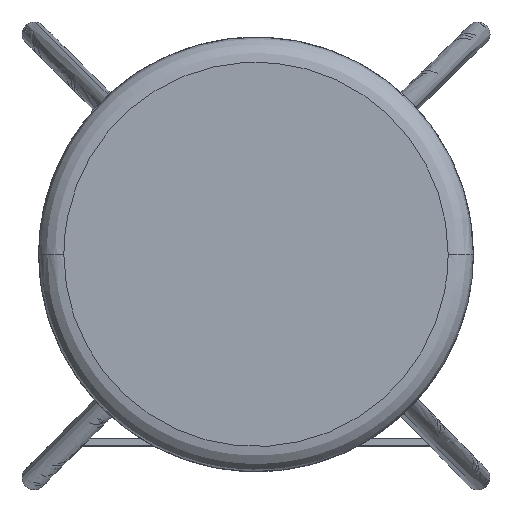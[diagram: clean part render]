
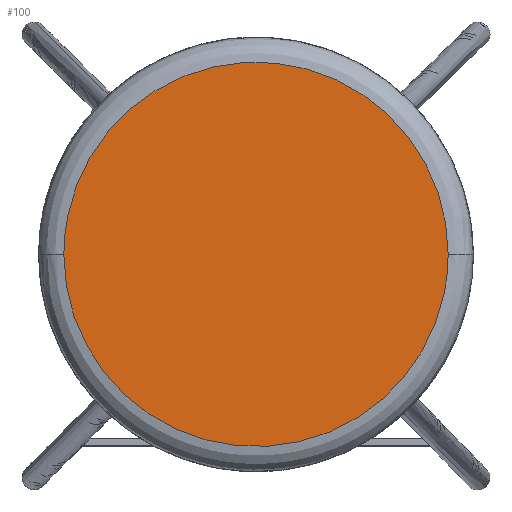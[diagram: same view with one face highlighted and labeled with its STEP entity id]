
A CAD part, top view. The second image highlights one B-rep face of the part: STEP entity #100.
In plain terms, the highlighted planar face has unit normal (0, 0, 1).
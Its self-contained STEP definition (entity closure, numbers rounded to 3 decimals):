
#100=ADVANCED_FACE('',(#185),#1115,.T.);
#185=FACE_OUTER_BOUND('',#270,.T.);
#270=EDGE_LOOP('',(#582,#583));
#582=ORIENTED_EDGE('',*,*,#757,.T.);
#583=ORIENTED_EDGE('',*,*,#763,.T.);
#757=EDGE_CURVE('',#1034,#1038,#921,.T.);
#763=EDGE_CURVE('',#1038,#1034,#927,.T.);
#921=(
BOUNDED_CURVE()
B_SPLINE_CURVE(3,(#2516,#2517,#2518,#2519,#2520,#2521,#2522,#2523,#2524,
#2525,#2526,#2527,#2528,#2529,#2530,#2531,#2532,#2533,#2534,#2535,#2536,
#2537,#2538,#2539,#2540,#2541,#2542,#2543,#2544,#2545,#2546,#2547,#2548,
#2549,#2550,#2551,#2552,#2553,#2554,#2555,#2556,#2557,#2558,#2559,#2560,
#2561,#2562,#2563,#2564),.UNSPECIFIED.,.F.,.F.)
B_SPLINE_CURVE_WITH_KNOTS((4,3,3,3,3,3,3,3,3,3,3,3,3,3,3,3,4),(0.,27.905,
57.486,88.301,119.773,151.245,182.06,
211.641,239.546,267.451,297.032,327.848,
359.319,390.791,421.606,451.187,479.092),
 .UNSPECIFIED.)
CURVE()
GEOMETRIC_REPRESENTATION_ITEM()
RATIONAL_B_SPLINE_CURVE((1.,1.,1.,1.,1.,
1.,1.,1.,1.,1.,1.,1.,1.,1.,
1.,1.,1.,1.,1.,1.,1.,1.,1.,1.,1.,
1.,1.,1.,1.,
1.,1.,1.,1.,1.,1.,1.,1.,1.,
1.,1.,1.,1.,1.,1.,1.,1.,
1.,1.,1.))
REPRESENTATION_ITEM('')
);
#927=(
BOUNDED_CURVE()
B_SPLINE_CURVE(3,(#2612,#2613,#2614,#2615,#2616,#2617,#2618,#2619,#2620,
#2621,#2622,#2623,#2624,#2625,#2626,#2627,#2628,#2629,#2630,#2631,#2632,
#2633,#2634,#2635,#2636,#2637,#2638,#2639,#2640,#2641,#2642,#2643,#2644,
#2645,#2646,#2647,#2648,#2649,#2650,#2651,#2652,#2653,#2654,#2655,#2656,
#2657,#2658,#2659,#2660),.UNSPECIFIED.,.F.,.F.)
B_SPLINE_CURVE_WITH_KNOTS((4,3,3,3,3,3,3,3,3,3,3,3,3,3,3,3,4),(479.092,
506.997,536.578,567.394,598.865,630.337,
661.152,690.733,718.638,746.543,776.124,
806.94,838.411,869.883,900.698,930.279,
958.184),.UNSPECIFIED.)
CURVE()
GEOMETRIC_REPRESENTATION_ITEM()
RATIONAL_B_SPLINE_CURVE((1.,1.,1.,1.,1.,1.,1.,1.,
1.,1.,1.,1.,1.,1.,1.,1.,1.,
1.,1.,1.,1.,1.,1.,1.,1.,1.,1.,1.,1.,1.,1.,
1.,1.,1.,1.,1.,1.,1.,1.,1.,1.,
1.,1.,1.,1.,
1.,1.,1.,1.))
REPRESENTATION_ITEM('')
);
#1034=VERTEX_POINT('',#2509);
#1038=VERTEX_POINT('',#2513);
#1115=PLANE('',#1177);
#1177=AXIS2_PLACEMENT_3D('',#2279,#1222,$);
#1222=DIRECTION('',(0.,0.,1.));
#2279=CARTESIAN_POINT('',(-215.625,-215.625,750.));
#2509=CARTESIAN_POINT('',(152.5,0.,750.));
#2513=CARTESIAN_POINT('',(-152.5,0.,750.));
#2516=CARTESIAN_POINT('',(152.5,0.,750.));
#2517=CARTESIAN_POINT('',(152.5,9.302,750.));
#2518=CARTESIAN_POINT('',(151.647,18.603,750.));
#2519=CARTESIAN_POINT('',(149.954,27.749,750.));
#2520=CARTESIAN_POINT('',(148.16,37.445,750.));
#2521=CARTESIAN_POINT('',(145.423,46.966,750.));
#2522=CARTESIAN_POINT('',(141.793,56.135,750.));
#2523=CARTESIAN_POINT('',(138.012,65.685,750.));
#2524=CARTESIAN_POINT('',(133.263,74.852,750.));
#2525=CARTESIAN_POINT('',(127.642,83.45,750.));
#2526=CARTESIAN_POINT('',(121.902,92.23,750.));
#2527=CARTESIAN_POINT('',(115.252,100.416,750.));
#2528=CARTESIAN_POINT('',(107.834,107.834,750.));
#2529=CARTESIAN_POINT('',(100.416,115.252,750.));
#2530=CARTESIAN_POINT('',(92.23,121.902,750.));
#2531=CARTESIAN_POINT('',(83.45,127.642,750.));
#2532=CARTESIAN_POINT('',(74.852,133.263,750.));
#2533=CARTESIAN_POINT('',(65.685,138.012,750.));
#2534=CARTESIAN_POINT('',(56.135,141.793,750.));
#2535=CARTESIAN_POINT('',(46.966,145.423,750.));
#2536=CARTESIAN_POINT('',(37.445,148.16,750.));
#2537=CARTESIAN_POINT('',(27.749,149.954,750.));
#2538=CARTESIAN_POINT('',(18.603,151.647,750.));
#2539=CARTESIAN_POINT('',(9.302,152.5,750.));
#2540=CARTESIAN_POINT('',(0.,152.5,750.));
#2541=CARTESIAN_POINT('',(-9.302,152.5,750.));
#2542=CARTESIAN_POINT('',(-18.603,151.647,750.));
#2543=CARTESIAN_POINT('',(-27.749,149.954,750.));
#2544=CARTESIAN_POINT('',(-37.445,148.16,750.));
#2545=CARTESIAN_POINT('',(-46.967,145.423,750.));
#2546=CARTESIAN_POINT('',(-56.135,141.793,750.));
#2547=CARTESIAN_POINT('',(-65.685,138.012,750.));
#2548=CARTESIAN_POINT('',(-74.852,133.263,750.));
#2549=CARTESIAN_POINT('',(-83.45,127.642,750.));
#2550=CARTESIAN_POINT('',(-92.23,121.902,750.));
#2551=CARTESIAN_POINT('',(-100.416,115.252,750.));
#2552=CARTESIAN_POINT('',(-107.834,107.834,750.));
#2553=CARTESIAN_POINT('',(-115.252,100.416,750.));
#2554=CARTESIAN_POINT('',(-121.902,92.23,750.));
#2555=CARTESIAN_POINT('',(-127.642,83.45,750.));
#2556=CARTESIAN_POINT('',(-133.263,74.852,750.));
#2557=CARTESIAN_POINT('',(-138.012,65.685,750.));
#2558=CARTESIAN_POINT('',(-141.793,56.135,750.));
#2559=CARTESIAN_POINT('',(-145.423,46.966,750.));
#2560=CARTESIAN_POINT('',(-148.16,37.445,750.));
#2561=CARTESIAN_POINT('',(-149.954,27.749,750.));
#2562=CARTESIAN_POINT('',(-151.647,18.603,750.));
#2563=CARTESIAN_POINT('',(-152.5,9.302,750.));
#2564=CARTESIAN_POINT('',(-152.5,0.,750.));
#2612=CARTESIAN_POINT('',(-152.5,0.,750.));
#2613=CARTESIAN_POINT('',(-152.5,-9.302,750.));
#2614=CARTESIAN_POINT('',(-151.647,-18.603,750.));
#2615=CARTESIAN_POINT('',(-149.954,-27.749,750.));
#2616=CARTESIAN_POINT('',(-148.16,-37.445,750.));
#2617=CARTESIAN_POINT('',(-145.423,-46.966,750.));
#2618=CARTESIAN_POINT('',(-141.793,-56.135,750.));
#2619=CARTESIAN_POINT('',(-138.012,-65.685,750.));
#2620=CARTESIAN_POINT('',(-133.263,-74.852,750.));
#2621=CARTESIAN_POINT('',(-127.642,-83.45,750.));
#2622=CARTESIAN_POINT('',(-121.902,-92.23,750.));
#2623=CARTESIAN_POINT('',(-115.252,-100.416,750.));
#2624=CARTESIAN_POINT('',(-107.834,-107.834,750.));
#2625=CARTESIAN_POINT('',(-100.416,-115.252,750.));
#2626=CARTESIAN_POINT('',(-92.23,-121.902,750.));
#2627=CARTESIAN_POINT('',(-83.45,-127.642,750.));
#2628=CARTESIAN_POINT('',(-74.852,-133.263,750.));
#2629=CARTESIAN_POINT('',(-65.685,-138.012,750.));
#2630=CARTESIAN_POINT('',(-56.135,-141.793,750.));
#2631=CARTESIAN_POINT('',(-46.966,-145.423,750.));
#2632=CARTESIAN_POINT('',(-37.445,-148.16,750.));
#2633=CARTESIAN_POINT('',(-27.749,-149.954,750.));
#2634=CARTESIAN_POINT('',(-18.603,-151.647,750.));
#2635=CARTESIAN_POINT('',(-9.302,-152.5,750.));
#2636=CARTESIAN_POINT('',(0.,-152.5,750.));
#2637=CARTESIAN_POINT('',(9.302,-152.5,750.));
#2638=CARTESIAN_POINT('',(18.603,-151.647,750.));
#2639=CARTESIAN_POINT('',(27.749,-149.954,750.));
#2640=CARTESIAN_POINT('',(37.445,-148.16,750.));
#2641=CARTESIAN_POINT('',(46.966,-145.423,750.));
#2642=CARTESIAN_POINT('',(56.135,-141.793,750.));
#2643=CARTESIAN_POINT('',(65.685,-138.012,750.));
#2644=CARTESIAN_POINT('',(74.852,-133.263,750.));
#2645=CARTESIAN_POINT('',(83.45,-127.642,750.));
#2646=CARTESIAN_POINT('',(92.23,-121.902,750.));
#2647=CARTESIAN_POINT('',(100.416,-115.252,750.));
#2648=CARTESIAN_POINT('',(107.834,-107.834,750.));
#2649=CARTESIAN_POINT('',(115.252,-100.416,750.));
#2650=CARTESIAN_POINT('',(121.902,-92.23,750.));
#2651=CARTESIAN_POINT('',(127.642,-83.45,750.));
#2652=CARTESIAN_POINT('',(133.263,-74.852,750.));
#2653=CARTESIAN_POINT('',(138.012,-65.685,750.));
#2654=CARTESIAN_POINT('',(141.793,-56.135,750.));
#2655=CARTESIAN_POINT('',(145.423,-46.966,750.));
#2656=CARTESIAN_POINT('',(148.16,-37.445,750.));
#2657=CARTESIAN_POINT('',(149.954,-27.749,750.));
#2658=CARTESIAN_POINT('',(151.647,-18.603,750.));
#2659=CARTESIAN_POINT('',(152.5,-9.302,750.));
#2660=CARTESIAN_POINT('',(152.5,0.,750.));
